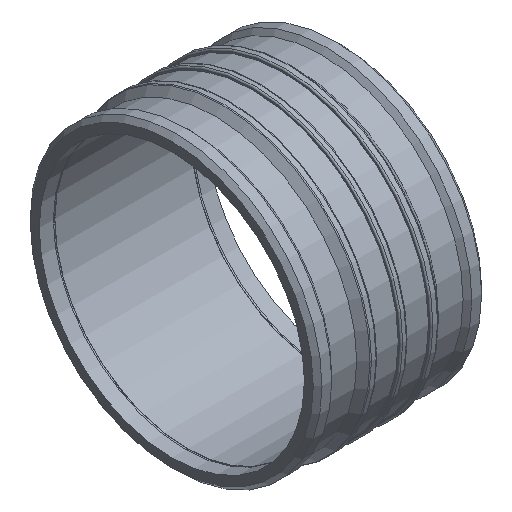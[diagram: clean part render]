
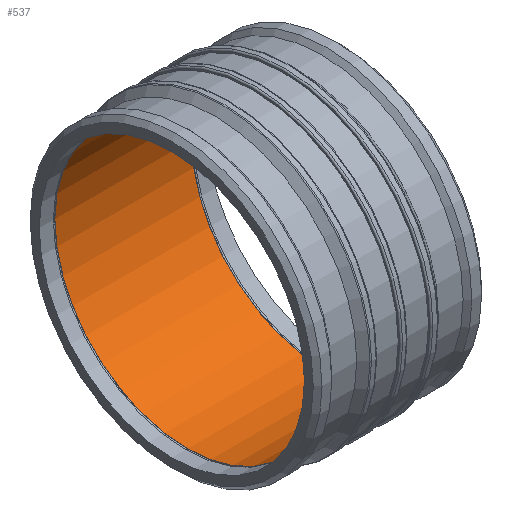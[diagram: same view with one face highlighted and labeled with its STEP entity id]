
A CAD part, isometric view. The second image highlights one B-rep face of the part: STEP entity #537.
In plain terms, the highlighted cylindrical face has radius 315 mm (diameter 630 mm), a full revolution.
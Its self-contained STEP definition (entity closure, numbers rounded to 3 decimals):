
#45=CYLINDRICAL_SURFACE('',#630,315.);
#87=FACE_BOUND('',#230,.T.);
#141=FACE_OUTER_BOUND('',#229,.T.);
#229=EDGE_LOOP('',(#471));
#230=EDGE_LOOP('',(#472));
#279=CIRCLE('',#629,315.);
#280=CIRCLE('',#631,315.);
#325=VERTEX_POINT('',#1030);
#326=VERTEX_POINT('',#1033);
#375=EDGE_CURVE('',#325,#325,#279,.T.);
#376=EDGE_CURVE('',#326,#326,#280,.T.);
#471=ORIENTED_EDGE('',*,*,#375,.T.);
#472=ORIENTED_EDGE('',*,*,#376,.F.);
#537=ADVANCED_FACE('',(#141,#87),#45,.F.);
#629=AXIS2_PLACEMENT_3D('',#1031,#811,#812);
#630=AXIS2_PLACEMENT_3D('',#1032,#813,#814);
#631=AXIS2_PLACEMENT_3D('',#1034,#815,#816);
#811=DIRECTION('center_axis',(1.,0.,0.));
#812=DIRECTION('ref_axis',(0.,0.,-1.));
#813=DIRECTION('center_axis',(1.,0.,0.));
#814=DIRECTION('ref_axis',(0.,1.,0.));
#815=DIRECTION('center_axis',(1.,0.,0.));
#816=DIRECTION('ref_axis',(0.,0.,-1.));
#1030=CARTESIAN_POINT('',(162.869,315.,0.));
#1031=CARTESIAN_POINT('Origin',(162.869,0.,
0.));
#1032=CARTESIAN_POINT('Origin',(-81.435,0.,
0.));
#1033=CARTESIAN_POINT('',(-162.869,315.,0.));
#1034=CARTESIAN_POINT('Origin',(-162.869,0.,
0.));
